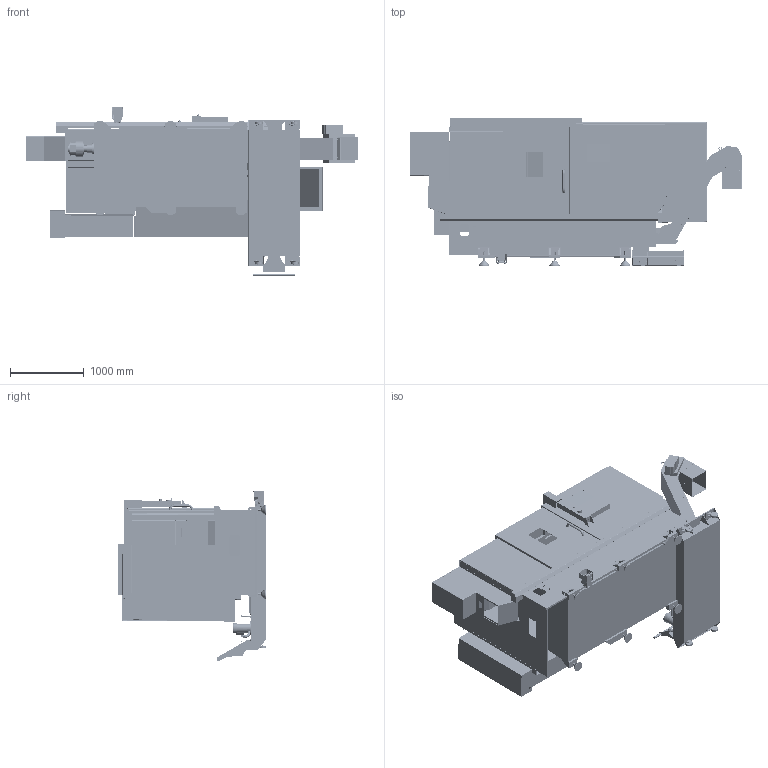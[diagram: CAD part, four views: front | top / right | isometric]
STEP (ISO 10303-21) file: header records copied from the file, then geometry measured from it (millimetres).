
FILE_DESCRIPTION (( 'STEP AP214' ), '1' );
FILE_NAME ('ST-30-35_STEP_2020-03.STEP', '2020-02-19T22:34:29', ( '' ), ( '' ), 'SwSTEP 2.0', 'SolidWorks 2019', '' );
FILE_SCHEMA (( 'AUTOMOTIVE_DESIGN' ));
Length unit declared in the file: inch
Products named in the file (18): Chip Conveyor (Option) ST30-35; 12 Inch Chuck (Option); BOT Turret ST30-35; 55 Gal (208L) Coolant Tank_UMC-500; Enclosure ST30-35 2020; BMT65 Turret; Probe arm ST20-35; 6 Inch [150mm] Sub Spindle Chuck_EXTEND; ST20-35 ATP Probe Assembly_ALTP ST-20  ST30; Tailstock (Option) ST30-35; Base Casting ST-30-35 2020; VDI Turret ST30-35; X Axis ST-30(Y)-35(Y) (Both Y & Non-Y); Probe Base ST20-35; Sub Spindle (Option) ST-30-35 2020; ST-30-35_STEP_2020-03; 10 Inch (250mm) Chuck_RETRACT; Z Axis ST-30-35 (Non-Y)
Assembly tree (17 placements, depth 3):
  ST-30-35_STEP_2020-03
    Base Casting ST-30-35 2020
    Enclosure ST30-35 2020
    Z Axis ST-30-35 (Non-Y)
    X Axis ST-30(Y)-35(Y) (Both Y & Non-Y)
    BMT65 Turret
    VDI Turret ST30-35
    BOT Turret ST30-35
    10 Inch (250mm) Chuck_RETRACT
    12 Inch Chuck (Option)
    Tailstock (Option) ST30-35
    Sub Spindle (Option) ST-30-35 2020
    6 Inch [150mm] Sub Spindle Chuck_EXTEND
    ST20-35 ATP Probe Assembly_ALTP ST-20  ST30
      Probe Base ST20-35
      Probe arm ST20-35
    55 Gal (208L) Coolant Tank_UMC-500
    Chip Conveyor (Option) ST30-35
Bounding box: 4499.08 x 2013.69 x 2303.61 mm (x, y, z)
Volume: 1329210929.5 mm3; surface area: 119494862.9 mm2
Topology: 154 solids, 320 shells, 21682 faces, 54575 edges, 33811 vertices
Faces by surface type: plane 11121, cylinder 6587, cone 2812, bspline 786, torus 320, sphere 56
Entity records: 1047118 total; most frequent: CARTESIAN_POINT 202941, ORIENTED_EDGE 114080, DIRECTION 108994, EDGE_CURVE 57434, VECTOR 36590, LINE 36590, VERTEX_POINT 36336, AXIS2_PLACEMENT_3D 36202
